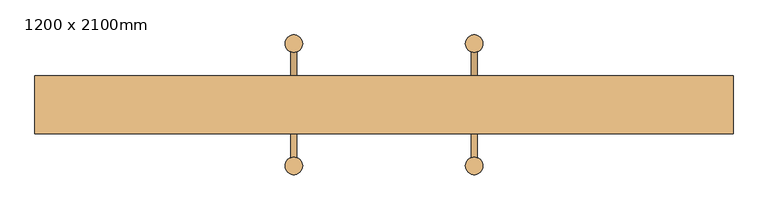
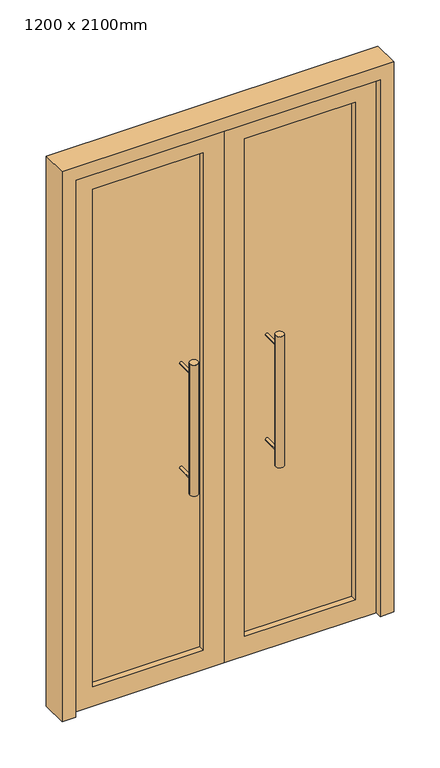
"""IFC4 building model written with IfcOpenShell, lengths in millimetres: door geometry, 双面嵌板玻璃门 : 1200 x 2100mm."""

import ifcopenshell
import ifcopenshell.guid

model = None  # the IFC model being written
_history = None  # IfcOwnerHistory: only IFC2X3 demands one
_inside = {}  # id of a spatial element -> (the spatial element, [elements in it])
_under = {}  # id of a project, library or spatial element -> (it, [spatial elements below it])
_declared = {}  # id of a project -> (the project, [libraries it declares])
_typed = {}  # id of a type object -> (the type object, [elements of that type])
_made_of = {}  # id of a material, layer set ... -> (it, [elements and type objects made of it])


def new_model(schema):
    """Start an empty IFC model of exactly this schema.

    Asked for "IFC4X3", IfcOpenShell would pick the latest addendum, in which some entities
    have other attributes; the version numbers below select the first issue.
    IFC2X3 requires an IfcOwnerHistory on every rooted entity: one is made here for all.
    """
    global model, _history
    if schema == "IFC4X3":
        model = ifcopenshell.file(schema_version=(4, 3, 0, 0))
    else:
        model = ifcopenshell.file(schema=schema)
    _inside.clear()
    _under.clear()
    _declared.clear()
    _typed.clear()
    _made_of.clear()
    _history = None
    if model.schema == "IFC2X3":
        org = make("IfcOrganization", Name="unknown")
        user = make(
            "IfcPersonAndOrganization",
            ThePerson=make("IfcPerson", FamilyName="unknown"),
            TheOrganization=org,
        )
        app = make(
            "IfcApplication",
            ApplicationDeveloper=org,
            Version="unknown",
            ApplicationFullName="unknown",
            ApplicationIdentifier="unknown",
        )
        _history = make(
            "IfcOwnerHistory",
            OwningUser=user,
            OwningApplication=app,
            ChangeAction="ADDED",
            CreationDate=0,
        )
    return model


def make(cls, **values):
    """One entity of the class cls with the attributes given. An attribute that is None is left unset."""
    return model.create_entity(
        cls, **{name: value for name, value in values.items() if value is not None}
    )


def rooted(cls, **values):
    """An entity with a GlobalId (a new one), such as an element, a storey or a relation."""
    return make(cls, GlobalId=ifcopenshell.guid.new(), OwnerHistory=_history, **values)


def si_unit(unit_type, name, prefix=None):
    """IfcSIUnit, for example si_unit("LENGTHUNIT", "METRE", prefix="MILLI")."""
    return make("IfcSIUnit", UnitType=unit_type, Prefix=prefix, Name=name)


def assignment(units):
    """IfcUnitAssignment: the units of a project."""
    return None if units is None else make("IfcUnitAssignment", Units=units)


def point(xyz):
    """IfcCartesianPoint."""
    return None if xyz is None else make("IfcCartesianPoint", Coordinates=xyz)


def direction(xyz):
    """IfcDirection."""
    return None if xyz is None else make("IfcDirection", DirectionRatios=xyz)


def frame(location, z_axis=None, x_axis=None):
    """IfcAxis2Placement3D, a coordinate frame: its origin and axes. An axis left out is left unset."""
    return make(
        "IfcAxis2Placement3D",
        Location=point(location),
        Axis=direction(z_axis),
        RefDirection=direction(x_axis),
    )


def frame_2d(location, x_axis=None):
    """IfcAxis2Placement2D, a coordinate frame in the plane: its origin and x axis."""
    return make(
        "IfcAxis2Placement2D", Location=point(location), RefDirection=direction(x_axis)
    )


def origin():
    """The frame at (0, 0, 0) with its axes left unset."""
    return frame((0.0, 0.0, 0.0))


def place(relative_to, where):
    """IfcLocalPlacement: puts the frame where relative to a parent placement (None: the world)."""
    return make(
        "IfcLocalPlacement", PlacementRelTo=relative_to, RelativePlacement=where
    )


def context(
    kind, dimensions, precision=None, world=None, true_north=None, identifier=None
):
    """IfcGeometricRepresentationContext, for example the 3D "Model" context."""
    return make(
        "IfcGeometricRepresentationContext",
        ContextIdentifier=identifier,
        ContextType=kind,
        CoordinateSpaceDimension=dimensions,
        Precision=precision,
        WorldCoordinateSystem=world,
        TrueNorth=true_north,
    )


def project(units=None, contexts=None):
    """IfcProject with its units and contexts."""
    return rooted(
        "IfcProject",
        Name="project",
        RepresentationContexts=contexts,
        UnitsInContext=assignment(units),
    )


def spatial(cls, under=None, at=None, **own):
    """A site, building, storey or space (cls), placed at a placement, below another one or the project."""
    s = rooted(cls, ObjectPlacement=at, **own)
    if under is not None:
        _under.setdefault(under.id(), (under, []))[1].append(s)
    return s


def polyline(points):
    """IfcPolyline through the points."""
    return make("IfcPolyline", Points=[point(p) for p in points])


def circle_curve(where, radius):
    """IfcCircle in the frame where."""
    return make("IfcCircle", Position=where, Radius=radius)


def trimmed(basis, trim1, trim2, sense, master):
    """IfcTrimmedCurve: the piece of a basis curve between two trims."""
    return make(
        "IfcTrimmedCurve",
        BasisCurve=basis,
        Trim1=trim1,
        Trim2=trim2,
        SenseAgreement=sense,
        MasterRepresentation=master,
    )


def segment(curve, same_sense, transition):
    """IfcCompositeCurveSegment."""
    return make(
        "IfcCompositeCurveSegment",
        Transition=transition,
        SameSense=same_sense,
        ParentCurve=curve,
    )


def composite_curve(segments, self_intersect=None):
    """IfcCompositeCurve: segments joined end to end."""
    return make("IfcCompositeCurve", Segments=segments, SelfIntersect=self_intersect)


def outline(outer, holes=None, kind="AREA"):
    """IfcArbitraryClosedProfileDef: a profile drawn as a closed curve; with holes, ...WithVoids."""
    if holes is None:
        return make("IfcArbitraryClosedProfileDef", ProfileType=kind, OuterCurve=outer)
    return make(
        "IfcArbitraryProfileDefWithVoids",
        ProfileType=kind,
        OuterCurve=outer,
        InnerCurves=holes,
    )


def extrude(swept, where, along, depth):
    """IfcExtrudedAreaSolid: the profile swept, set in the frame where, extruded along a direction by depth."""
    return make(
        "IfcExtrudedAreaSolid",
        SweptArea=swept,
        Position=where,
        ExtrudedDirection=direction(along),
        Depth=depth,
    )


def shape(context_of_items, identifier, shape_type, items):
    """IfcShapeRepresentation: the items that make up one representation, for example the "Body"."""
    return make(
        "IfcShapeRepresentation",
        ContextOfItems=context_of_items,
        RepresentationIdentifier=identifier,
        RepresentationType=shape_type,
        Items=items,
    )


def source(mapping_origin, context_of_items, identifier, shape_type, items):
    """IfcRepresentationMap: a shape defined once, which mapped items show again and again."""
    return make(
        "IfcRepresentationMap",
        MappingOrigin=mapping_origin,
        MappedRepresentation=shape(context_of_items, identifier, shape_type, items),
    )


def transform(
    local_origin,
    x_axis=None,
    y_axis=None,
    z_axis=None,
    scale=None,
    scale2=None,
    scale3=None,
    uniform=True,
):
    """IfcCartesianTransformationOperator3D, or its non-uniform kind. x_axis, y_axis, z_axis: its Axis1, 2, 3."""
    if uniform:
        return make(
            "IfcCartesianTransformationOperator3D",
            Axis1=direction(x_axis),
            Axis2=direction(y_axis),
            LocalOrigin=point(local_origin),
            Scale=scale,
            Axis3=direction(z_axis),
        )
    return make(
        "IfcCartesianTransformationOperator3DnonUniform",
        Axis1=direction(x_axis),
        Axis2=direction(y_axis),
        LocalOrigin=point(local_origin),
        Scale=scale,
        Axis3=direction(z_axis),
        Scale2=scale2,
        Scale3=scale3,
    )


def mapped(mapping_source, mapping_target):
    """IfcMappedItem: shows the shape of a source again, moved by a transform."""
    return make(
        "IfcMappedItem", MappingSource=mapping_source, MappingTarget=mapping_target
    )


def made_of(thing, what):
    """Note that an element or type object is made of a material, layer set ...; save() writes the relation."""
    if what is not None:
        _made_of.setdefault(what.id(), (what, []))[1].append(thing)
    return thing


def element(
    cls,
    number,
    at=None,
    inside=None,
    cuts=None,
    type_object=None,
    material=None,
    context=None,
    identifier="Body",
    shape_type=None,
    held_by="IfcProductDefinitionShape",
    body=None,
    shapes=None,
    **own,
):
    """One element of the class cls, such as IfcWall. Its Tag is "e" and its number.

    at: its placement. inside: the storey or other place that contains it. cuts: it is an
    opening in that element (IfcRelVoidsElement). A single representation is given by context,
    identifier, shape_type and body (its items); several are given by shapes. held_by: the class
    of the entity that holds the representations. save() writes the other relations.
    """
    e = rooted(cls, Tag="e%d" % number, ObjectPlacement=at, **own)
    if body is not None:
        shapes = [shape(context, identifier, shape_type, body)]
    if shapes is not None:
        e.Representation = make(held_by, Representations=shapes)
    if inside is not None:
        _inside.setdefault(inside.id(), (inside, []))[1].append(e)
    if cuts is not None:
        rooted(
            "IfcRelVoidsElement", RelatingBuildingElement=cuts, RelatedOpeningElement=e
        )
    if type_object is not None:
        _typed.setdefault(type_object.id(), (type_object, []))[1].append(e)
    return made_of(e, material)


def aggregate(whole, parts):
    """IfcRelAggregates: a whole, such as a stair, and the parts it consists of."""
    return rooted("IfcRelAggregates", RelatingObject=whole, RelatedObjects=parts)


def save(model, path):
    """Write the relations noted so far, then the file.

    IfcRelAggregates (storeys below a building ...), IfcRelContainedInSpatialStructure (elements
    in a storey), IfcRelDefinesByType, IfcRelAssociatesMaterial and IfcRelDeclares: one each for
    every whole, place, type object, material and project.
    """
    for whole, parts in _under.values():
        aggregate(whole, parts)
    for where, things in _inside.values():
        rooted(
            "IfcRelContainedInSpatialStructure",
            RelatedElements=things,
            RelatingStructure=where,
        )
    for kind, things in _typed.values():
        rooted("IfcRelDefinesByType", RelatedObjects=things, RelatingType=kind)
    for what, things in _made_of.values():
        rooted("IfcRelAssociatesMaterial", RelatedObjects=things, RelatingMaterial=what)
    for by, libraries in _declared.values():
        rooted("IfcRelDeclares", RelatingContext=by, RelatedDefinitions=libraries)
    model.write(path)


def door_1200_x_2100mm_28484c29(model_context):
    return source(origin(), model_context, "Body", "SweptSolid", [
        extrude(outline(composite_curve([segment(trimmed(circle_curve(frame_2d((155.0, 105.0)), 15.0), [point((140.0, 105.0))], [point((170.0, 105.0))], False, "CARTESIAN"), True, "CONTINUOUS"), segment(trimmed(circle_curve(frame_2d((155.0, 105.0)), 15.0), [point((170.0, 105.0))], [point((140.0, 105.0))], False, "CARTESIAN"), True, "CONTINUOUS")], self_intersect=False)), frame((0.0, 0.0, 750.0), z_axis=(0.0, 0.0, 1.0), x_axis=(1.0, 0.0, 0.0)), (0.0, 0.0, 1.0), 500.0),
        extrude(outline(composite_curve([segment(trimmed(circle_curve(frame_2d((1200.0, 155.0)), 5.0), [point((1200.0, 150.0))], [point((1200.0, 160.0))], False, "CARTESIAN"), True, "CONTINUOUS"), segment(trimmed(circle_curve(frame_2d((1200.0, 155.0)), 5.0), [point((1200.0, 160.0))], [point((1200.0, 150.0))], False, "CARTESIAN"), True, "CONTINUOUS")], self_intersect=False)), frame((0.0, 25.0, 0.0), z_axis=(0.0, 1.0, 0.0), x_axis=(0.0, 0.0, 1.0)), (0.0, 0.0, 1.0), 80.0),
        extrude(outline(composite_curve([segment(trimmed(circle_curve(frame_2d((800.0, 155.0)), 5.0), [point((800.0, 150.0))], [point((800.0, 160.0))], False, "CARTESIAN"), True, "CONTINUOUS"), segment(trimmed(circle_curve(frame_2d((800.0, 155.0)), 5.0), [point((800.0, 160.0))], [point((800.0, 150.0))], False, "CARTESIAN"), True, "CONTINUOUS")], self_intersect=False)), frame((0.0, 25.0, 0.0), z_axis=(0.0, 1.0, 0.0), x_axis=(0.0, 0.0, 1.0)), (0.0, 0.0, 1.0), 80.0),
        extrude(outline(composite_curve([segment(trimmed(circle_curve(frame_2d((1200.0, 155.0)), 5.0), [point((1200.0, 150.0))], [point((1200.0, 160.0))], False, "CARTESIAN"), True, "CONTINUOUS"), segment(trimmed(circle_curve(frame_2d((1200.0, 155.0)), 5.0), [point((1200.0, 160.0))], [point((1200.0, 150.0))], False, "CARTESIAN"), True, "CONTINUOUS")], self_intersect=False)), frame((0.0, -105.0, 0.0), z_axis=(0.0, 1.0, 0.0), x_axis=(0.0, 0.0, 1.0)), (0.0, 0.0, 1.0), 80.0),
        extrude(outline(composite_curve([segment(trimmed(circle_curve(frame_2d((800.0, 155.0)), 5.0), [point((800.0, 150.0))], [point((800.0, 160.0))], False, "CARTESIAN"), True, "CONTINUOUS"), segment(trimmed(circle_curve(frame_2d((800.0, 155.0)), 5.0), [point((800.0, 160.0))], [point((800.0, 150.0))], False, "CARTESIAN"), True, "CONTINUOUS")], self_intersect=False)), frame((0.0, -105.0, 0.0), z_axis=(0.0, 1.0, 0.0), x_axis=(0.0, 0.0, 1.0)), (0.0, 0.0, 1.0), 80.0),
        extrude(outline(composite_curve([segment(trimmed(circle_curve(frame_2d((155.0, -105.0)), 15.0), [point((140.0, -105.0))], [point((170.0, -105.0))], False, "CARTESIAN"), True, "CONTINUOUS"), segment(trimmed(circle_curve(frame_2d((155.0, -105.0)), 15.0), [point((170.0, -105.0))], [point((140.0, -105.0))], False, "CARTESIAN"), True, "CONTINUOUS")], self_intersect=False)), frame((0.0, 0.0, 750.0), z_axis=(0.0, 0.0, 1.0), x_axis=(1.0, 0.0, 0.0)), (0.0, 0.0, 1.0), 500.0),
        extrude(outline(composite_curve([segment(trimmed(circle_curve(frame_2d((-155.0, 105.0)), 15.0), [point((-170.0, 105.0))], [point((-140.0, 105.0))], False, "CARTESIAN"), True, "CONTINUOUS"), segment(trimmed(circle_curve(frame_2d((-155.0, 105.0)), 15.0), [point((-140.0, 105.0))], [point((-170.0, 105.0))], False, "CARTESIAN"), True, "CONTINUOUS")], self_intersect=False)), frame((0.0, 0.0, 750.0), z_axis=(0.0, 0.0, 1.0), x_axis=(1.0, 0.0, 0.0)), (0.0, 0.0, 1.0), 500.0),
        extrude(outline(composite_curve([segment(trimmed(circle_curve(frame_2d((1200.0, -155.0)), 5.0), [point((1200.0, -160.0))], [point((1200.0, -150.0))], False, "CARTESIAN"), True, "CONTINUOUS"), segment(trimmed(circle_curve(frame_2d((1200.0, -155.0)), 5.0), [point((1200.0, -150.0))], [point((1200.0, -160.0))], False, "CARTESIAN"), True, "CONTINUOUS")], self_intersect=False)), frame((0.0, 25.0, 0.0), z_axis=(0.0, 1.0, 0.0), x_axis=(0.0, 0.0, 1.0)), (0.0, 0.0, 1.0), 80.0),
        extrude(outline(composite_curve([segment(trimmed(circle_curve(frame_2d((800.0, -155.0)), 5.0), [point((800.0, -160.0))], [point((800.0, -150.0))], False, "CARTESIAN"), True, "CONTINUOUS"), segment(trimmed(circle_curve(frame_2d((800.0, -155.0)), 5.0), [point((800.0, -150.0))], [point((800.0, -160.0))], False, "CARTESIAN"), True, "CONTINUOUS")], self_intersect=False)), frame((0.0, 25.0, 0.0), z_axis=(0.0, 1.0, 0.0), x_axis=(0.0, 0.0, 1.0)), (0.0, 0.0, 1.0), 80.0),
        extrude(outline(composite_curve([segment(trimmed(circle_curve(frame_2d((1200.0, -155.0)), 5.0), [point((1200.0, -160.0))], [point((1200.0, -150.0))], False, "CARTESIAN"), True, "CONTINUOUS"), segment(trimmed(circle_curve(frame_2d((1200.0, -155.0)), 5.0), [point((1200.0, -150.0))], [point((1200.0, -160.0))], False, "CARTESIAN"), True, "CONTINUOUS")], self_intersect=False)), frame((0.0, -105.0, 0.0), z_axis=(0.0, 1.0, 0.0), x_axis=(0.0, 0.0, 1.0)), (0.0, 0.0, 1.0), 80.0),
        extrude(outline(composite_curve([segment(trimmed(circle_curve(frame_2d((800.0, -155.0)), 5.0), [point((800.0, -160.0))], [point((800.0, -150.0))], False, "CARTESIAN"), True, "CONTINUOUS"), segment(trimmed(circle_curve(frame_2d((800.0, -155.0)), 5.0), [point((800.0, -150.0))], [point((800.0, -160.0))], False, "CARTESIAN"), True, "CONTINUOUS")], self_intersect=False)), frame((0.0, -105.0, 0.0), z_axis=(0.0, 1.0, 0.0), x_axis=(0.0, 0.0, 1.0)), (0.0, 0.0, 1.0), 80.0),
        extrude(outline(composite_curve([segment(trimmed(circle_curve(frame_2d((-155.0, -105.0)), 15.0), [point((-170.0, -105.0))], [point((-140.0, -105.0))], False, "CARTESIAN"), True, "CONTINUOUS"), segment(trimmed(circle_curve(frame_2d((-155.0, -105.0)), 15.0), [point((-140.0, -105.0))], [point((-170.0, -105.0))], False, "CARTESIAN"), True, "CONTINUOUS")], self_intersect=False)), frame((0.0, 0.0, 750.0), z_axis=(0.0, 0.0, 1.0), x_axis=(1.0, 0.0, 0.0)), (0.0, 0.0, 1.0), 500.0),
        extrude(outline(polyline([(75.0, 2.0), (475.0, 2.0), (475.0, -2.0), (75.0, -2.0), (75.0, 2.0)])), frame((0.0, 0.0, 75.0), z_axis=(0.0, 0.0, 1.0), x_axis=(1.0, 0.0, 0.0)), (0.0, 0.0, 1.0), 1900.0),
        extrude(outline(polyline([(-475.0, 2.0), (-75.0, 2.0), (-75.0, -2.0), (-475.0, -2.0), (-475.0, 2.0)])), frame((0.0, 0.0, 75.0), z_axis=(0.0, 0.0, 1.0), x_axis=(1.0, 0.0, 0.0)), (0.0, 0.0, 1.0), 1900.0),
        extrude(outline(polyline([(2050.0, 0.0), (2050.0, -550.0), (0.0, -550.0), (0.0, 0.0), (2050.0, 0.0)]), holes=[polyline([(1975.0, -475.0), (1975.0, -75.0), (75.0, -75.0), (75.0, -475.0), (1975.0, -475.0)])]), frame((0.0, -25.0, 0.0), z_axis=(0.0, 1.0, 0.0), x_axis=(0.0, 0.0, 1.0)), (0.0, 0.0, 1.0), 50.0),
        extrude(outline(polyline([(2050.0, 0.0), (0.0, 0.0), (0.0, 550.0), (2050.0, 550.0), (2050.0, 0.0)]), holes=[polyline([(1975.0, 475.0), (75.0, 475.0), (75.0, 75.0), (1975.0, 75.0), (1975.0, 475.0)])]), frame((0.0, -25.0, 0.0), z_axis=(0.0, 1.0, 0.0), x_axis=(0.0, 0.0, 1.0)), (0.0, 0.0, 1.0), 50.0),
        extrude(outline(polyline([(2100.0, 600.0), (2100.0, -600.0), (0.0, -600.0), (0.0, -550.0), (2050.0, -550.0), (2050.0, 550.0), (0.0, 550.0), (0.0, 600.0), (2100.0, 600.0)])), frame((0.0, -50.0, 0.0), z_axis=(0.0, 1.0, 0.0), x_axis=(0.0, 0.0, 1.0)), (0.0, 0.0, 1.0), 100.0),
    ])


if __name__ == "__main__":
    model = new_model("IFC4")
    model_context = context("Model", 3, world=origin())
    ifc_project = project(units=[si_unit("LENGTHUNIT", "METRE", prefix="MILLI")], contexts=[model_context])
    site = spatial("IfcSite", under=ifc_project)
    building = spatial("IfcBuilding", under=site)
    placement = place(None, origin())
    door_1200_x_2100mm_shape = door_1200_x_2100mm_28484c29(model_context)
    element("IfcDoor", 1, ObjectType="双面嵌板玻璃门 : 1200 x 2100mm", at=placement, inside=building, context=model_context, shape_type="MappedRepresentation", body=[
        mapped(door_1200_x_2100mm_shape, transform((0.0, 0.0, 0.0), x_axis=(1.0, 0.0, 0.0), y_axis=(0.0, 1.0, 0.0), z_axis=(0.0, 0.0, 1.0))),
    ])
    save(model, "model.ifc")
